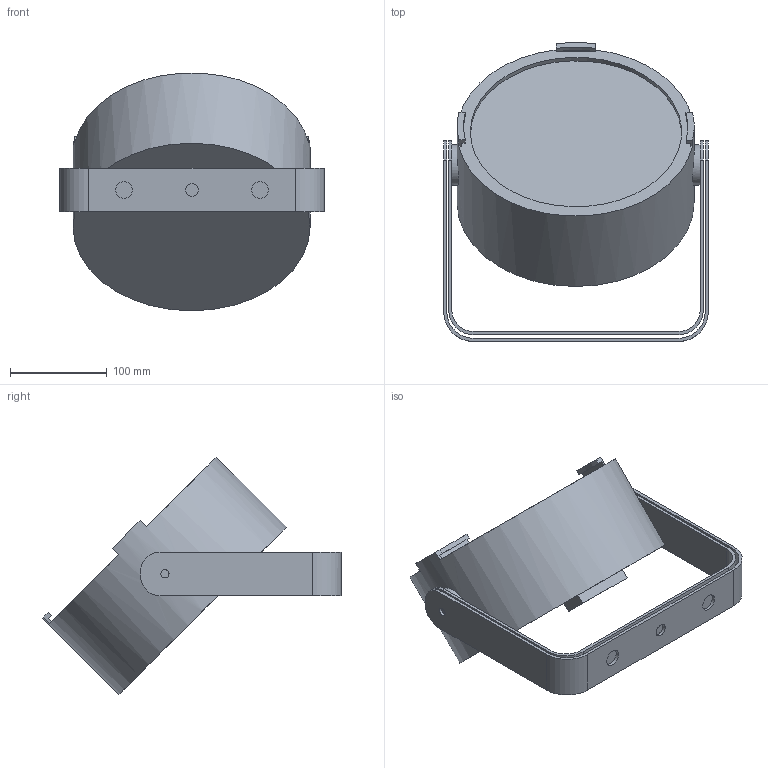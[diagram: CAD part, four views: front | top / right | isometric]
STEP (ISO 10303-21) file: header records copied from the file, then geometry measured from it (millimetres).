
FILE_DESCRIPTION(/* description */ (''),/* implementation_level */ '2;1');
FILE_NAME(/* name */ 'C:\Users\dgooch\Documents\!!CADENG\PRO\Colordash Par H18X\0\Colordash Par H18X_45_3D.stp',/* time_stamp */ '2022-08-02T12:01:29-04:00',/* author */ ('dgooch'),/* organization */ (''),/* preprocessor_version */ 'ST-DEVELOPER v19',/* originating_system */ 'Autodesk Inventor 2023',/* authorisation */ '');
FILE_SCHEMA (('AUTOMOTIVE_DESIGN { 1 0 10303 214 3 1 1 }'));
Length unit declared in the file: millimetre
Products named in the file (4): Colordash Par H18X; PRT0096 (1); PRT0097 (1); Main (1)
Assembly tree (3 placements, depth 2):
  Colordash Par H18X
    PRT0096 (1)
    PRT0097 (1)
    Main (1)
Bounding box: 272.8 x 308.18 x 245.01 mm (x, y, z)
Volume: 4848610.4 mm3; surface area: 305614.1 mm2
Topology: 3 solids, 3 shells, 75 faces, 199 edges, 133 vertices
Faces by surface type: plane 45, cylinder 29, bspline 1
Full cylindrical faces by diameter (mm): 8.5 x4, 13 x1, 17.2 x2, 42.102 x2, 244.458 x1
Entity records: 3968 total; most frequent: CARTESIAN_POINT 1857, DIRECTION 416, ORIENTED_EDGE 398, EDGE_CURVE 199, AXIS2_PLACEMENT_3D 143, VERTEX_POINT 133, LINE 130, VECTOR 130
